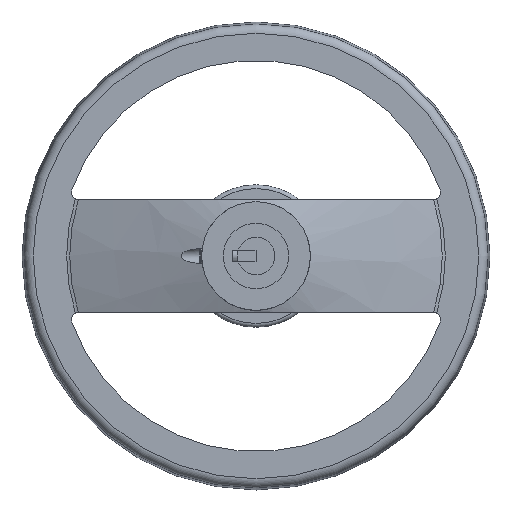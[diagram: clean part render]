
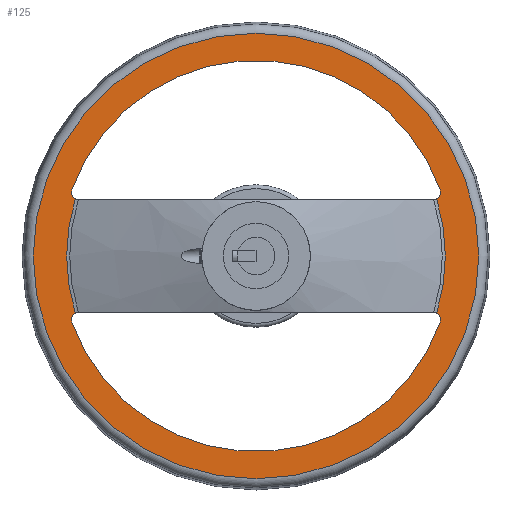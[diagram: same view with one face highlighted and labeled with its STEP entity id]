
A CAD part, left-side view. The second image highlights one B-rep face of the part: STEP entity #125.
In plain terms, the highlighted planar face has unit normal (-1, 0, 0).
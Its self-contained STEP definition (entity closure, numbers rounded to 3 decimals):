
#125 = ADVANCED_FACE( '', ( #266, #267, #268, #269 ), #270, .F. );
#266 = FACE_BOUND( '', #449, .T. );
#267 = FACE_BOUND( '', #450, .T. );
#268 = FACE_OUTER_BOUND( '', #451, .T. );
#269 = FACE_BOUND( '', #452, .T. );
#270 = PLANE( '', #453 );
#449 = EDGE_LOOP( '', ( #874, #875, #876, #877 ) );
#450 = EDGE_LOOP( '', ( #878, #879, #880, #881 ) );
#451 = EDGE_LOOP( '', ( #882 ) );
#452 = EDGE_LOOP( '', ( #883, #884, #885, #886 ) );
#453 = AXIS2_PLACEMENT_3D( '', #887, #888, #889 );
#874 = ORIENTED_EDGE( '', *, *, #1131, .F. );
#875 = ORIENTED_EDGE( '', *, *, #1030, .F. );
#876 = ORIENTED_EDGE( '', *, *, #1034, .F. );
#877 = ORIENTED_EDGE( '', *, *, #1132, .F. );
#878 = ORIENTED_EDGE( '', *, *, #1093, .F. );
#879 = ORIENTED_EDGE( '', *, *, #1133, .F. );
#880 = ORIENTED_EDGE( '', *, *, #1073, .F. );
#881 = ORIENTED_EDGE( '', *, *, #1068, .F. );
#882 = ORIENTED_EDGE( '', *, *, #1134, .T. );
#883 = ORIENTED_EDGE( '', *, *, #1084, .F. );
#884 = ORIENTED_EDGE( '', *, *, #1088, .F. );
#885 = ORIENTED_EDGE( '', *, *, #1090, .F. );
#886 = ORIENTED_EDGE( '', *, *, #1091, .F. );
#887 = CARTESIAN_POINT( '', ( 38., -118.889, 0. ) );
#888 = DIRECTION( '', ( 1., 0., 0. ) );
#889 = DIRECTION( '', ( 0., 0., -1. ) );
#1030 = EDGE_CURVE( '', #1188, #1190, #1191, .T. );
#1034 = EDGE_CURVE( '', #1195, #1188, #1197, .T. );
#1068 = EDGE_CURVE( '', #1255, #1256, #1257, .F. );
#1073 = EDGE_CURVE( '', #1256, #1265, #1266, .F. );
#1084 = EDGE_CURVE( '', #1282, #1284, #1285, .F. );
#1088 = EDGE_CURVE( '', #1288, #1282, #1290, .F. );
#1090 = EDGE_CURVE( '', #1291, #1288, #1293, .F. );
#1091 = EDGE_CURVE( '', #1284, #1291, #1294, .T. );
#1093 = EDGE_CURVE( '', #1295, #1255, #1297, .F. );
#1131 = EDGE_CURVE( '', #1190, #1359, #1360, .T. );
#1132 = EDGE_CURVE( '', #1359, #1195, #1361, .T. );
#1133 = EDGE_CURVE( '', #1265, #1295, #1362, .T. );
#1134 = EDGE_CURVE( '', #1363, #1363, #1364, .T. );
#1188 = VERTEX_POINT( '', #1506 );
#1190 = VERTEX_POINT( '', #1513 );
#1191 = LINE( '', #1514, #1515 );
#1195 = VERTEX_POINT( '', #1524 );
#1197 = CIRCLE( '', #1531, 101.05 );
#1255 = VERTEX_POINT( '', #1648 );
#1256 = VERTEX_POINT( '', #1649 );
#1257 = CIRCLE( '', #1650, 104.4 );
#1265 = VERTEX_POINT( '', #1682 );
#1266 = CIRCLE( '', #1683, 4. );
#1282 = VERTEX_POINT( '', #1814 );
#1284 = VERTEX_POINT( '', #1817 );
#1285 = CIRCLE( '', #1818, 4. );
#1288 = VERTEX_POINT( '', #1822 );
#1290 = CIRCLE( '', #1825, 104.4 );
#1291 = VERTEX_POINT( '', #1826 );
#1293 = CIRCLE( '', #1829, 4. );
#1294 = LINE( '', #1830, #1831 );
#1295 = VERTEX_POINT( '', #1832 );
#1297 = CIRCLE( '', #1835, 4. );
#1359 = VERTEX_POINT( '', #2026 );
#1360 = CIRCLE( '', #2027, 101.05 );
#1361 = LINE( '', #2028, #2029 );
#1362 = LINE( '', #2030, #2031 );
#1363 = VERTEX_POINT( '', #2032 );
#1364 = CIRCLE( '', #2033, 118.889 );
#1506 = CARTESIAN_POINT( '', ( 38., 96.494, -29.999 ) );
#1513 = CARTESIAN_POINT( '', ( 38., -96.494, -29.999 ) );
#1514 = CARTESIAN_POINT( '', ( 38., 250., -29.999 ) );
#1515 = VECTOR( '', #2097, 1000. );
#1524 = CARTESIAN_POINT( '', ( 38., 96.494, 29.999 ) );
#1531 = AXIS2_PLACEMENT_3D( '', #2101, #2102, #2103 );
#1648 = CARTESIAN_POINT( '', ( 38., 98.231, -35.355 ) );
#1649 = CARTESIAN_POINT( '', ( 38., -98.231, -35.355 ) );
#1650 = AXIS2_PLACEMENT_3D( '', #2158, #2159, #2160 );
#1682 = CARTESIAN_POINT( '', ( 38., -94.468, -30. ) );
#1683 = AXIS2_PLACEMENT_3D( '', #2166, #2167, #2168 );
#1814 = CARTESIAN_POINT( '', ( 38., 98.231, 35.355 ) );
#1817 = CARTESIAN_POINT( '', ( 38., 94.468, 30. ) );
#1818 = AXIS2_PLACEMENT_3D( '', #2180, #2181, #2182 );
#1822 = CARTESIAN_POINT( '', ( 38., -98.231, 35.355 ) );
#1825 = AXIS2_PLACEMENT_3D( '', #2188, #2189, #2190 );
#1826 = CARTESIAN_POINT( '', ( 38., -94.468, 30. ) );
#1829 = AXIS2_PLACEMENT_3D( '', #2192, #2193, #2194 );
#1830 = CARTESIAN_POINT( '', ( 38., -118.889, 30. ) );
#1831 = VECTOR( '', #2195, 1000. );
#1832 = CARTESIAN_POINT( '', ( 38., 94.468, -30. ) );
#1835 = AXIS2_PLACEMENT_3D( '', #2197, #2198, #2199 );
#2026 = CARTESIAN_POINT( '', ( 38., -96.494, 29.999 ) );
#2027 = AXIS2_PLACEMENT_3D( '', #2254, #2255, #2256 );
#2028 = CARTESIAN_POINT( '', ( 38., -250., 29.999 ) );
#2029 = VECTOR( '', #2257, 1000. );
#2030 = CARTESIAN_POINT( '', ( 38., -118.889, -30. ) );
#2031 = VECTOR( '', #2258, 1000. );
#2032 = CARTESIAN_POINT( '', ( 38., 0., 118.889 ) );
#2033 = AXIS2_PLACEMENT_3D( '', #2259, #2260, #2261 );
#2097 = DIRECTION( '', ( 0., -1., 0. ) );
#2101 = CARTESIAN_POINT( '', ( 38., 0., 0. ) );
#2102 = DIRECTION( '', ( -1., 0., 0. ) );
#2103 = DIRECTION( '', ( 0., 0., 1. ) );
#2158 = CARTESIAN_POINT( '', ( 38., 0., 0. ) );
#2159 = DIRECTION( '', ( 1., 0., 0. ) );
#2160 = DIRECTION( '', ( 0., 0., -1. ) );
#2166 = CARTESIAN_POINT( '', ( 38., -94.468, -34. ) );
#2167 = DIRECTION( '', ( 1., 0., 0. ) );
#2168 = DIRECTION( '', ( 0., 0., -1. ) );
#2180 = CARTESIAN_POINT( '', ( 38., 94.468, 34. ) );
#2181 = DIRECTION( '', ( 1., 0., 0. ) );
#2182 = DIRECTION( '', ( 0., 0., -1. ) );
#2188 = CARTESIAN_POINT( '', ( 38., 0., 0. ) );
#2189 = DIRECTION( '', ( 1., 0., 0. ) );
#2190 = DIRECTION( '', ( 0., 0., -1. ) );
#2192 = CARTESIAN_POINT( '', ( 38., -94.468, 34. ) );
#2193 = DIRECTION( '', ( 1., 0., 0. ) );
#2194 = DIRECTION( '', ( 0., 0., -1. ) );
#2195 = DIRECTION( '', ( 0., -1., 0. ) );
#2197 = CARTESIAN_POINT( '', ( 38., 94.468, -34. ) );
#2198 = DIRECTION( '', ( 1., 0., 0. ) );
#2199 = DIRECTION( '', ( 0., 0., -1. ) );
#2254 = CARTESIAN_POINT( '', ( 38., 0., 0. ) );
#2255 = DIRECTION( '', ( -1., 0., 0. ) );
#2256 = DIRECTION( '', ( 0., 0., 1. ) );
#2257 = DIRECTION( '', ( 0., 1., 0. ) );
#2258 = DIRECTION( '', ( 0., 1., 0. ) );
#2259 = CARTESIAN_POINT( '', ( 38., 0., 0. ) );
#2260 = DIRECTION( '', ( -1., 0., 0. ) );
#2261 = DIRECTION( '', ( 0., 0., 1. ) );
